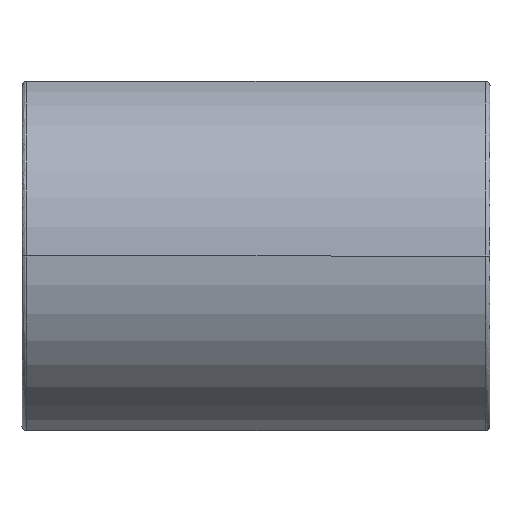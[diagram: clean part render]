
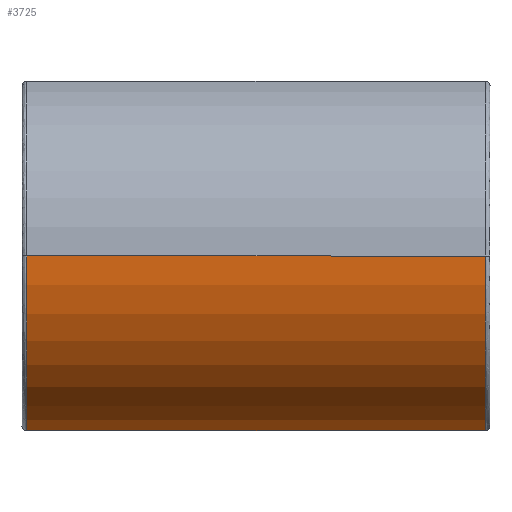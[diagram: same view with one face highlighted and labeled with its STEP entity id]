
A CAD part, front view. The second image highlights one B-rep face of the part: STEP entity #3725.
In plain terms, the highlighted cylindrical face has radius 19.5 mm (diameter 39 mm), a partial arc.
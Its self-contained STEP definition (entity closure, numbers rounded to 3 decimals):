
#213 = VERTEX_POINT ( 'NONE', #8111 ) ;
#504 = CIRCLE ( 'NONE', #4140, 19.5 ) ;
#1058 = DIRECTION ( 'NONE',  ( 1., 0., 0. ) ) ;
#1195 = ORIENTED_EDGE ( 'NONE', *, *, #4662, .F. ) ;
#1232 = DIRECTION ( 'NONE',  ( 0., -1., 0. ) ) ;
#1398 = ORIENTED_EDGE ( 'NONE', *, *, #5747, .T. ) ;
#2223 = CARTESIAN_POINT ( 'NONE',  ( -0.5, -19.5, 0. ) ) ;
#2294 = CARTESIAN_POINT ( 'NONE',  ( -49.7, 0., 0. ) ) ;
#2459 = VERTEX_POINT ( 'NONE', #4071 ) ;
#2537 = ORIENTED_EDGE ( 'NONE', *, *, #5025, .T. ) ;
#2925 = DIRECTION ( 'NONE',  ( 0., -1., 0. ) ) ;
#3501 = EDGE_CURVE ( 'NONE', #2459, #213, #504, .T. ) ;
#3560 = VERTEX_POINT ( 'NONE', #8115 ) ;
#3566 = CARTESIAN_POINT ( 'NONE',  ( -49.7, -19.5, 0. ) ) ;
#3576 = DIRECTION ( 'NONE',  ( 1., 0., 0. ) ) ;
#3725 = ADVANCED_FACE ( 'NONE', ( #4287 ), #5554, .T. ) ;
#4071 = CARTESIAN_POINT ( 'NONE',  ( -0.5, -19.5, 0. ) ) ;
#4140 = AXIS2_PLACEMENT_3D ( 'NONE', #7416, #3576, #8057 ) ;
#4142 = VECTOR ( 'NONE', #7319, 1000. ) ;
#4238 = LINE ( 'NONE', #5538, #5272 ) ;
#4287 = FACE_OUTER_BOUND ( 'NONE', #7067, .T. ) ;
#4406 = DIRECTION ( 'NONE',  ( -1., 0., 0. ) ) ;
#4662 = EDGE_CURVE ( 'NONE', #3560, #8164, #7847, .T. ) ;
#5025 = EDGE_CURVE ( 'NONE', #3560, #213, #4238, .T. ) ;
#5117 = LINE ( 'NONE', #2223, #4142 ) ;
#5272 = VECTOR ( 'NONE', #1058, 1000. ) ;
#5538 = CARTESIAN_POINT ( 'NONE',  ( -0.5, -5.356, -18.75 ) ) ;
#5554 = CYLINDRICAL_SURFACE ( 'NONE', #6546, 19.5 ) ;
#5615 = AXIS2_PLACEMENT_3D ( 'NONE', #2294, #6755, #2925 ) ;
#5747 = EDGE_CURVE ( 'NONE', #2459, #8164, #5117, .T. ) ;
#5755 = ORIENTED_EDGE ( 'NONE', *, *, #3501, .F. ) ;
#6546 = AXIS2_PLACEMENT_3D ( 'NONE', #6955, #4406, #1232 ) ;
#6755 = DIRECTION ( 'NONE',  ( -1., 0., 0. ) ) ;
#6955 = CARTESIAN_POINT ( 'NONE',  ( -0.5, 0., 0. ) ) ;
#7067 = EDGE_LOOP ( 'NONE', ( #5755, #1398, #1195, #2537 ) ) ;
#7319 = DIRECTION ( 'NONE',  ( -1., 0., 0. ) ) ;
#7416 = CARTESIAN_POINT ( 'NONE',  ( -0.5, 0., 0. ) ) ;
#7847 = CIRCLE ( 'NONE', #5615, 19.5 ) ;
#8057 = DIRECTION ( 'NONE',  ( 0., -1., 0. ) ) ;
#8111 = CARTESIAN_POINT ( 'NONE',  ( -0.5, -5.356, -18.75 ) ) ;
#8115 = CARTESIAN_POINT ( 'NONE',  ( -49.7, -5.356, -18.75 ) ) ;
#8164 = VERTEX_POINT ( 'NONE', #3566 ) ;
